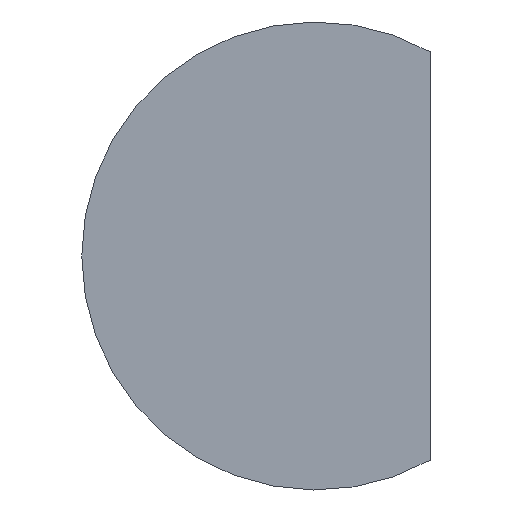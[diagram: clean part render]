
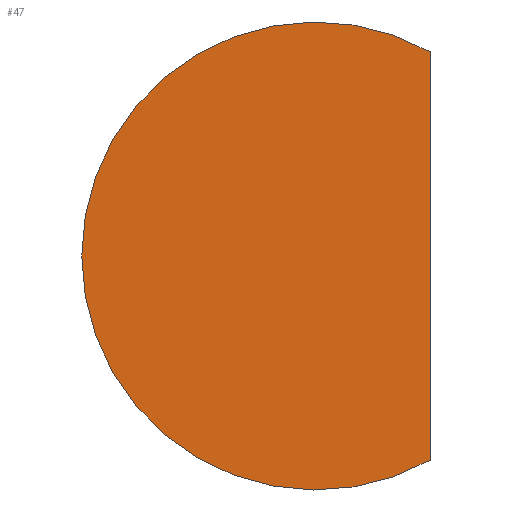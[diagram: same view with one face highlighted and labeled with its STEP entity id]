
A CAD part, front view. The second image highlights one B-rep face of the part: STEP entity #47.
In plain terms, the highlighted planar face has unit normal (0, -1, 0).
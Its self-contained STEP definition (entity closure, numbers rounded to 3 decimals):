
#42 = CARTESIAN_POINT ( 'NONE',  ( 0., 0., 0. ) ) ;
#47 = ADVANCED_FACE ( 'NONE', ( #256 ), #77, .T. ) ;
#61 = CARTESIAN_POINT ( 'NONE',  ( 0., 0., 0. ) ) ;
#71 = DIRECTION ( 'NONE',  ( 0., 1., 0. ) ) ;
#76 = ORIENTED_EDGE ( 'NONE', *, *, #249, .T. ) ;
#77 = PLANE ( 'NONE',  #601 ) ;
#180 = CARTESIAN_POINT ( 'NONE',  ( 17., 0., -34.75 ) ) ;
#249 = EDGE_CURVE ( 'NONE', #1160, #659, #865, .T. ) ;
#256 = FACE_OUTER_BOUND ( 'NONE', #658, .T. ) ;
#318 = DIRECTION ( 'NONE',  ( 0., -1., 0. ) ) ;
#390 = CIRCLE ( 'NONE', #1070, 34.75 ) ;
#601 = AXIS2_PLACEMENT_3D ( 'NONE', #42, #318, #1040 ) ;
#602 = ORIENTED_EDGE ( 'NONE', *, *, #1143, .F. ) ;
#658 = EDGE_LOOP ( 'NONE', ( #76, #602, #675 ) ) ;
#659 = VERTEX_POINT ( 'NONE', #1148 ) ;
#663 = DIRECTION ( 'NONE',  ( 0., 0., 1. ) ) ;
#675 = ORIENTED_EDGE ( 'NONE', *, *, #709, .F. ) ;
#709 = EDGE_CURVE ( 'NONE', #1160, #1054, #390, .T. ) ;
#865 = LINE ( 'NONE', #180, #1397 ) ;
#874 = AXIS2_PLACEMENT_3D ( 'NONE', #61, #71, #1550 ) ;
#998 = DIRECTION ( 'NONE',  ( 0., 1., 0. ) ) ;
#1014 = DIRECTION ( 'NONE',  ( -1., 0., 0. ) ) ;
#1040 = DIRECTION ( 'NONE',  ( 1., 0., 0. ) ) ;
#1054 = VERTEX_POINT ( 'NONE', #1144 ) ;
#1070 = AXIS2_PLACEMENT_3D ( 'NONE', #1396, #998, #1014 ) ;
#1143 = EDGE_CURVE ( 'NONE', #1054, #659, #1540, .T. ) ;
#1144 = CARTESIAN_POINT ( 'NONE',  ( -34.75, 0., 0. ) ) ;
#1148 = CARTESIAN_POINT ( 'NONE',  ( 17., 0., 30.308 ) ) ;
#1160 = VERTEX_POINT ( 'NONE', #1541 ) ;
#1396 = CARTESIAN_POINT ( 'NONE',  ( 0., 0., 0. ) ) ;
#1397 = VECTOR ( 'NONE', #663, 1000. ) ;
#1540 = CIRCLE ( 'NONE', #874, 34.75 ) ;
#1541 = CARTESIAN_POINT ( 'NONE',  ( 17., 0., -30.308 ) ) ;
#1550 = DIRECTION ( 'NONE',  ( -1., 0., 0. ) ) ;
